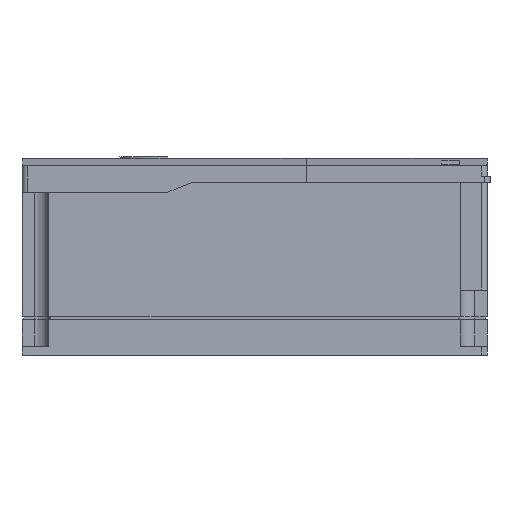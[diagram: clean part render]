
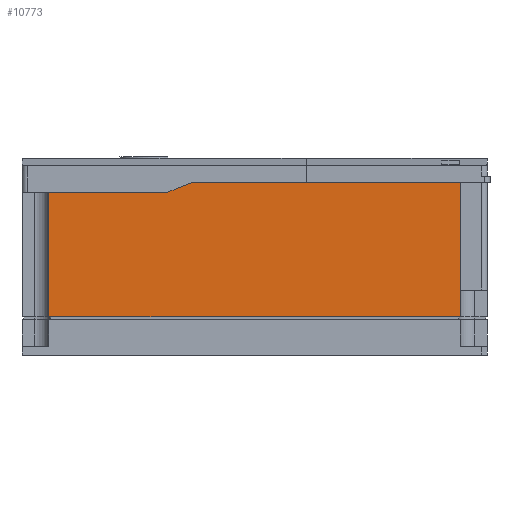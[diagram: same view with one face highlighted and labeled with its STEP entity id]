
A CAD part, left-side view. The second image highlights one B-rep face of the part: STEP entity #10773.
In plain terms, the highlighted planar face has unit normal (-1, 0, 0).
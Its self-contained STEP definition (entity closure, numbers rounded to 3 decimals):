
#1399=DIRECTION('',(0.,-1.,0.));
#1400=VECTOR('',#1399,66.);
#1401=CARTESIAN_POINT('',(-55.,115.,91.));
#1402=LINE('',#1401,#1400);
#1403=DIRECTION('',(0.,0.926,-0.377));
#1404=VECTOR('',#1403,14.577);
#1405=CARTESIAN_POINT('',(-55.,35.5,96.5));
#1406=LINE('',#1405,#1404);
#1407=DIRECTION('',(0.,0.,1.));
#1408=VECTOR('',#1407,75.);
#1409=CARTESIAN_POINT('',(-55.,-115.,21.5));
#1410=LINE('',#1409,#1408);
#1411=DIRECTION('',(0.,0.,1.));
#1412=VECTOR('',#1411,69.5);
#1413=CARTESIAN_POINT('',(-55.,115.,21.5));
#1414=LINE('',#1413,#1412);
#1452=DIRECTION('',(0.,-1.,0.));
#1453=VECTOR('',#1452,150.5);
#1454=CARTESIAN_POINT('',(-55.,35.5,96.5));
#1455=LINE('',#1454,#1453);
#2648=DIRECTION('',(0.,-1.,0.));
#2649=VECTOR('',#2648,230.);
#2650=CARTESIAN_POINT('',(-55.,115.,21.5));
#2651=LINE('',#2650,#2649);
#7090=CARTESIAN_POINT('',(-55.,-115.,21.5));
#7091=CARTESIAN_POINT('',(-55.,-115.,96.5));
#7092=VERTEX_POINT('',#7090);
#7093=VERTEX_POINT('',#7091);
#7098=CARTESIAN_POINT('',(-55.,115.,21.5));
#7099=VERTEX_POINT('',#7098);
#7332=CARTESIAN_POINT('',(-55.,35.5,96.5));
#7334=VERTEX_POINT('',#7332);
#7340=CARTESIAN_POINT('',(-55.,115.,91.));
#7341=CARTESIAN_POINT('',(-55.,49.,91.));
#7342=VERTEX_POINT('',#7340);
#7343=VERTEX_POINT('',#7341);
#10755=CARTESIAN_POINT('',(-55.,130.,21.5));
#10756=DIRECTION('',(-1.,0.,0.));
#10757=DIRECTION('',(0.,-1.,0.));
#10758=AXIS2_PLACEMENT_3D('',#10755,#10756,#10757);
#10759=PLANE('',#10758);
#10760=ORIENTED_EDGE('',*,*,#10713,.T.);
#10762=ORIENTED_EDGE('',*,*,#10761,.F.);
#10764=ORIENTED_EDGE('',*,*,#10763,.T.);
#10766=ORIENTED_EDGE('',*,*,#10765,.F.);
#10768=ORIENTED_EDGE('',*,*,#10767,.F.);
#10770=ORIENTED_EDGE('',*,*,#10769,.T.);
#10771=EDGE_LOOP('',(#10760,#10762,#10764,#10766,#10768,#10770));
#10772=FACE_OUTER_BOUND('',#10771,.F.);
#10773=ADVANCED_FACE('',(#10772),#10759,.T.);
#10713=EDGE_CURVE('',#7342,#7343,#1402,.T.);
#10761=EDGE_CURVE('',#7334,#7343,#1406,.T.);
#10763=EDGE_CURVE('',#7334,#7093,#1455,.T.);
#10765=EDGE_CURVE('',#7092,#7093,#1410,.T.);
#10767=EDGE_CURVE('',#7099,#7092,#2651,.T.);
#10769=EDGE_CURVE('',#7099,#7342,#1414,.T.);
